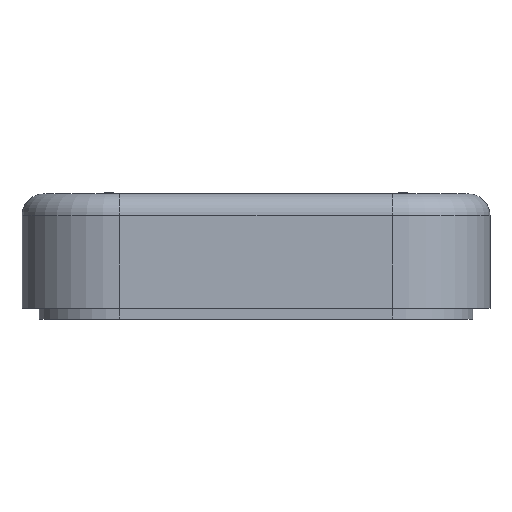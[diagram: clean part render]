
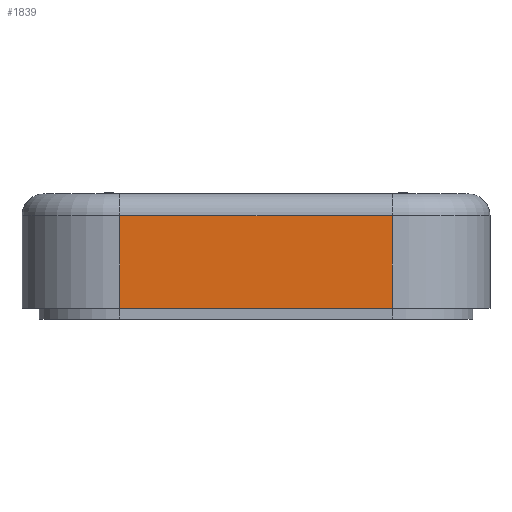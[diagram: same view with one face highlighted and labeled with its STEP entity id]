
A CAD part, front view. The second image highlights one B-rep face of the part: STEP entity #1839.
In plain terms, the highlighted planar face has unit normal (0, -1, 0).
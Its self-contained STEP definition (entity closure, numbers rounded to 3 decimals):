
#44 = CYLINDRICAL_SURFACE('',#45,18.);
#45 = AXIS2_PLACEMENT_3D('',#46,#47,#48);
#46 = CARTESIAN_POINT('',(-25.,-49.,-12.5));
#47 = DIRECTION('',(0.,0.,1.));
#48 = DIRECTION('',(-1.,-0.,0.));
#72 = PLANE('',#73);
#73 = AXIS2_PLACEMENT_3D('',#74,#75,#76);
#74 = CARTESIAN_POINT('',(-100.,-110.,-8.5));
#75 = DIRECTION('',(0.,0.,1.));
#76 = DIRECTION('',(1.,0.,-0.));
#373 = VERTEX_POINT('',#374);
#374 = CARTESIAN_POINT('',(-25.,-67.,-8.5));
#400 = EDGE_CURVE('',#373,#401,#403,.T.);
#401 = VERTEX_POINT('',#402);
#402 = CARTESIAN_POINT('',(-25.,-67.,8.5));
#403 = SURFACE_CURVE('',#404,(#408,#415),.PCURVE_S1.);
#404 = LINE('',#405,#406);
#405 = CARTESIAN_POINT('',(-25.,-67.,-12.5));
#406 = VECTOR('',#407,1.);
#407 = DIRECTION('',(0.,0.,1.));
#408 = PCURVE('',#44,#409);
#409 = DEFINITIONAL_REPRESENTATION('',(#410),#414);
#410 = LINE('',#411,#412);
#411 = CARTESIAN_POINT('',(1.571,0.));
#412 = VECTOR('',#413,1.);
#413 = DIRECTION('',(0.,1.));
#414 = ( GEOMETRIC_REPRESENTATION_CONTEXT(2) 
PARAMETRIC_REPRESENTATION_CONTEXT() REPRESENTATION_CONTEXT('2D SPACE',''
  ) );
#415 = PCURVE('',#416,#421);
#416 = PLANE('',#417);
#417 = AXIS2_PLACEMENT_3D('',#418,#419,#420);
#418 = CARTESIAN_POINT('',(-43.,-67.,-12.5));
#419 = DIRECTION('',(0.,1.,0.));
#420 = DIRECTION('',(0.,-0.,1.));
#421 = DEFINITIONAL_REPRESENTATION('',(#422),#426);
#422 = LINE('',#423,#424);
#423 = CARTESIAN_POINT('',(0.,18.));
#424 = VECTOR('',#425,1.);
#425 = DIRECTION('',(1.,0.));
#426 = ( GEOMETRIC_REPRESENTATION_CONTEXT(2) 
PARAMETRIC_REPRESENTATION_CONTEXT() REPRESENTATION_CONTEXT('2D SPACE',''
  ) );
#460 = EDGE_CURVE('',#461,#373,#463,.T.);
#461 = VERTEX_POINT('',#462);
#462 = CARTESIAN_POINT('',(25.,-67.,-8.5));
#463 = SURFACE_CURVE('',#464,(#468,#475),.PCURVE_S1.);
#464 = LINE('',#465,#466);
#465 = CARTESIAN_POINT('',(25.,-67.,-8.5));
#466 = VECTOR('',#467,1.);
#467 = DIRECTION('',(-1.,-0.,-0.));
#468 = PCURVE('',#72,#469);
#469 = DEFINITIONAL_REPRESENTATION('',(#470),#474);
#470 = LINE('',#471,#472);
#471 = CARTESIAN_POINT('',(125.,43.));
#472 = VECTOR('',#473,1.);
#473 = DIRECTION('',(-1.,0.));
#474 = ( GEOMETRIC_REPRESENTATION_CONTEXT(2) 
PARAMETRIC_REPRESENTATION_CONTEXT() REPRESENTATION_CONTEXT('2D SPACE',''
  ) );
#475 = PCURVE('',#416,#476);
#476 = DEFINITIONAL_REPRESENTATION('',(#477),#481);
#477 = LINE('',#478,#479);
#478 = CARTESIAN_POINT('',(4.,68.));
#479 = VECTOR('',#480,1.);
#480 = DIRECTION('',(0.,-1.));
#481 = ( GEOMETRIC_REPRESENTATION_CONTEXT(2) 
PARAMETRIC_REPRESENTATION_CONTEXT() REPRESENTATION_CONTEXT('2D SPACE',''
  ) );
#504 = CYLINDRICAL_SURFACE('',#505,18.);
#505 = AXIS2_PLACEMENT_3D('',#506,#507,#508);
#506 = CARTESIAN_POINT('',(25.,-49.,-12.5));
#507 = DIRECTION('',(0.,0.,1.));
#508 = DIRECTION('',(1.,0.,-0.));
#1839 = ADVANCED_FACE('',(#1840),#416,.F.);
#1840 = FACE_BOUND('',#1841,.F.);
#1841 = EDGE_LOOP('',(#1842,#1843,#1871,#1892));
#1842 = ORIENTED_EDGE('',*,*,#400,.T.);
#1843 = ORIENTED_EDGE('',*,*,#1844,.F.);
#1844 = EDGE_CURVE('',#1845,#401,#1847,.T.);
#1845 = VERTEX_POINT('',#1846);
#1846 = CARTESIAN_POINT('',(25.,-67.,8.5));
#1847 = SURFACE_CURVE('',#1848,(#1852,#1859),.PCURVE_S1.);
#1848 = LINE('',#1849,#1850);
#1849 = CARTESIAN_POINT('',(25.,-67.,8.5));
#1850 = VECTOR('',#1851,1.);
#1851 = DIRECTION('',(-1.,-0.,-0.));
#1852 = PCURVE('',#416,#1853);
#1853 = DEFINITIONAL_REPRESENTATION('',(#1854),#1858);
#1854 = LINE('',#1855,#1856);
#1855 = CARTESIAN_POINT('',(21.,68.));
#1856 = VECTOR('',#1857,1.);
#1857 = DIRECTION('',(0.,-1.));
#1858 = ( GEOMETRIC_REPRESENTATION_CONTEXT(2) 
PARAMETRIC_REPRESENTATION_CONTEXT() REPRESENTATION_CONTEXT('2D SPACE',''
  ) );
#1859 = PCURVE('',#1860,#1865);
#1860 = CYLINDRICAL_SURFACE('',#1861,4.);
#1861 = AXIS2_PLACEMENT_3D('',#1862,#1863,#1864);
#1862 = CARTESIAN_POINT('',(25.,-63.,8.5));
#1863 = DIRECTION('',(-1.,-0.,-0.));
#1864 = DIRECTION('',(0.,-1.,0.));
#1865 = DEFINITIONAL_REPRESENTATION('',(#1866),#1870);
#1866 = LINE('',#1867,#1868);
#1867 = CARTESIAN_POINT('',(0.,0.));
#1868 = VECTOR('',#1869,1.);
#1869 = DIRECTION('',(0.,1.));
#1870 = ( GEOMETRIC_REPRESENTATION_CONTEXT(2) 
PARAMETRIC_REPRESENTATION_CONTEXT() REPRESENTATION_CONTEXT('2D SPACE',''
  ) );
#1871 = ORIENTED_EDGE('',*,*,#1872,.F.);
#1872 = EDGE_CURVE('',#461,#1845,#1873,.T.);
#1873 = SURFACE_CURVE('',#1874,(#1878,#1885),.PCURVE_S1.);
#1874 = LINE('',#1875,#1876);
#1875 = CARTESIAN_POINT('',(25.,-67.,-12.5));
#1876 = VECTOR('',#1877,1.);
#1877 = DIRECTION('',(0.,0.,1.));
#1878 = PCURVE('',#416,#1879);
#1879 = DEFINITIONAL_REPRESENTATION('',(#1880),#1884);
#1880 = LINE('',#1881,#1882);
#1881 = CARTESIAN_POINT('',(0.,68.));
#1882 = VECTOR('',#1883,1.);
#1883 = DIRECTION('',(1.,0.));
#1884 = ( GEOMETRIC_REPRESENTATION_CONTEXT(2) 
PARAMETRIC_REPRESENTATION_CONTEXT() REPRESENTATION_CONTEXT('2D SPACE',''
  ) );
#1885 = PCURVE('',#504,#1886);
#1886 = DEFINITIONAL_REPRESENTATION('',(#1887),#1891);
#1887 = LINE('',#1888,#1889);
#1888 = CARTESIAN_POINT('',(4.712,0.));
#1889 = VECTOR('',#1890,1.);
#1890 = DIRECTION('',(-0.,1.));
#1891 = ( GEOMETRIC_REPRESENTATION_CONTEXT(2) 
PARAMETRIC_REPRESENTATION_CONTEXT() REPRESENTATION_CONTEXT('2D SPACE',''
  ) );
#1892 = ORIENTED_EDGE('',*,*,#460,.T.);
